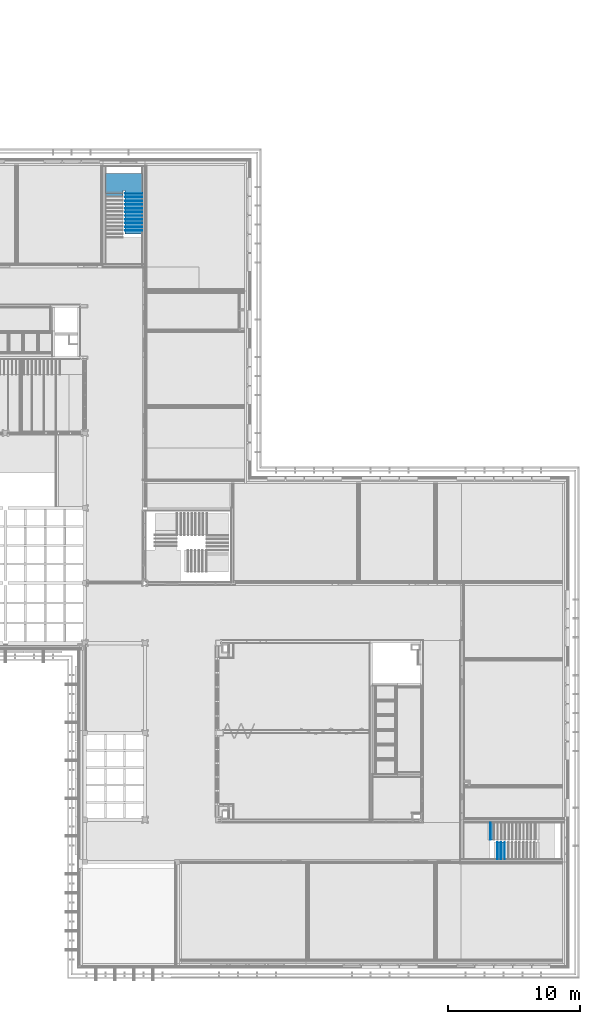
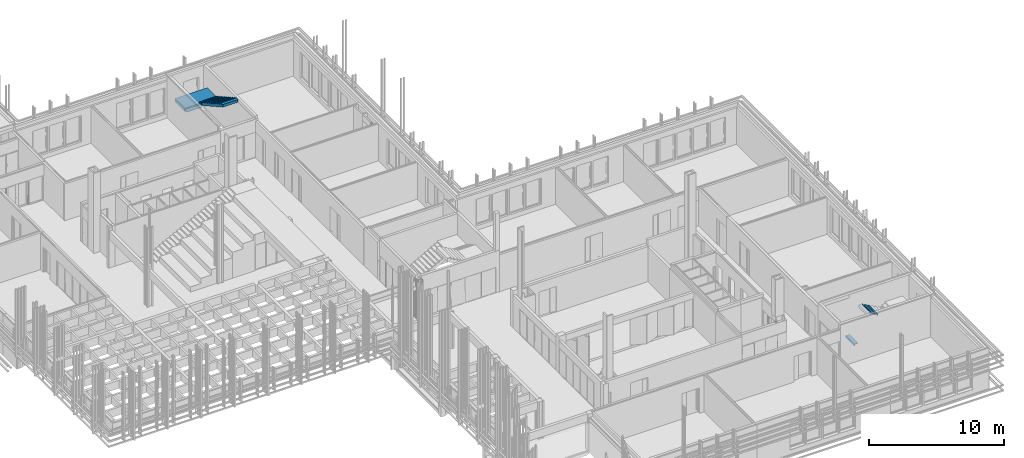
# One storey, part 43 of 139: 32 members, 2 elements without a shape of their own.
"""IFC2X3 building model written with IfcOpenShell, lengths in millimetres."""

from ifc_helpers import new_model, entity, si_unit, converted_unit, derived_unit, money_unit, direction, frame, origin_with_axes, place, context, subcontext, project, spatial, faceted_brep, material, type_object, element, aggregate, save


model = new_model("IFC2X3")

# Units and contexts
model_context = context("Model", 3, precision=0.01, world=origin_with_axes(), true_north=direction((0.0, 1.0)))
body_context = subcontext(model_context, "Body", "Model", "MODEL_VIEW")
ifc_project = project(units=[si_unit("LENGTHUNIT", "METRE", prefix="MILLI"), si_unit("AREAUNIT", "SQUARE_METRE"), si_unit("VOLUMEUNIT", "CUBIC_METRE"), converted_unit("PLANEANGLEUNIT", "DEGREE", entity("IfcPlaneAngleMeasure", 0.0174532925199), si_unit("PLANEANGLEUNIT", "RADIAN"), dimensions=[0, 0, 0, 0, 0, 0, 0]), money_unit("EUR"), converted_unit("TIMEUNIT", "Year", entity("IfcTimeMeasure", 31556926.0), si_unit("TIMEUNIT", "SECOND"), dimensions=[0, 0, 1, 0, 0, 0, 0]), si_unit("MASSUNIT", "GRAM", prefix="KILO"), si_unit("THERMODYNAMICTEMPERATUREUNIT", "DEGREE_CELSIUS"), si_unit("LUMINOUSINTENSITYUNIT", "LUMEN"), si_unit("ENERGYUNIT", "JOULE", prefix="MEGA"), derived_unit("THERMALCONDUCTANCEUNIT", [(si_unit("POWERUNIT", "WATT"), 1), (si_unit("LENGTHUNIT", "METRE"), -1), (si_unit("THERMODYNAMICTEMPERATUREUNIT", "KELVIN"), -1)]), derived_unit("SPECIFICHEATCAPACITYUNIT", [(si_unit("ENERGYUNIT", "JOULE"), 1), (si_unit("MASSUNIT", "GRAM", prefix="KILO"), -1), (si_unit("THERMODYNAMICTEMPERATUREUNIT", "KELVIN"), -1)]), derived_unit("MASSDENSITYUNIT", [(si_unit("MASSUNIT", "GRAM", prefix="KILO"), 1), (si_unit("VOLUMEUNIT", "CUBIC_METRE"), -1)])], contexts=[model_context])

# Site, building, storey
site_placement = place(None, origin_with_axes())
site = spatial("IfcSite", under=ifc_project, at=site_placement, Name="Kolde pst 67a", CompositionType="ELEMENT")
building_placement = place(site_placement, origin_with_axes())
building = spatial("IfcBuilding", under=site, at=building_placement, Name="Riigigümnaasium", CompositionType="ELEMENT")
storey_placement = place(building_placement, frame((0.0, 0.0, 4600.0), z_axis=(0.0, 0.0, 1.0), x_axis=(1.0, 0.0, 0.0)))
storey = spatial("IfcBuildingStorey", under=building, at=storey_placement, Name="2. korrus", CompositionType="ELEMENT", Elevation=4600.0)

# Stair, members
stair_1_placement = place(storey_placement, frame((51080.0706538, 54829.9964424, 0.0), z_axis=(0.0, 0.0, 1.0), x_axis=(-1.34692449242e-05, 0.999999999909, 0.0)))
stair_1 = element("IfcStair", 1, at=stair_1_placement, inside=storey, Name="TREPP", ShapeType="NOTDEFINED")
ifc_material_1 = material(Name="_KANDETARIND - raudbetoon C25/30 vastavalt EK osale")
member_type_1 = type_object("IfcMemberType", Name="IfcMember", PredefinedType="USERDEFINED")
member_1_placement = place(stair_1_placement, origin_with_axes())
member_1 = element("IfcMember", 2, at=member_1_placement, type_object=member_type_1, material=ifc_material_1, Name="TM KONSTRUKTSIOON - 005", ObjectType="Stair Structure", context=body_context, shape_type="Brep", body=[
    faceted_brep([(3389.99972087, -20.0455584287, 2001.25), (3559.99971549, -20.0478482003, 2001.25), (3559.99729103, -200.047888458, 2001.25), (3394.44999968, -200.045658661, 2001.25), (3394.44999969, -1500.04519461, 2001.25), (4839.97980631, -1500.04519461, 2001.25), (4840.01725407, 1279.88441487, 2001.25), (3390.01720204, 1279.90393313, 2001.25), (3389.99972087, -20.0455584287, 1845.0), (3359.99973031, -20.0451543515, 1845.0), (3359.99973031, -20.0451543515, 1736.25), (3559.99971549, -20.0478482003, 1736.25), (3559.99729103, -200.047888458, 1736.25), (3394.44999968, -200.045658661, 1736.25), (3394.44999969, -1500.04519461, 1736.25), (4839.97980631, -1500.04519461, 1736.25), (4840.01725407, 1279.88441487, 1736.25), (3360.01723808, 1279.90434006, 1736.25), (3360.01723808, 1279.90433698, 1845.0), (3390.01720204, 1279.90393313, 1845.0)], [[[0, 1, 2, 3, 4, 5, 6, 7]], [[1, 0, 8, 9, 10, 11]], [[2, 1, 11, 12]], [[3, 2, 12, 13]], [[3, 13, 14, 4]], [[15, 5, 4, 14]], [[15, 16, 6, 5]], [[17, 18, 19, 7, 6, 16]], [[8, 0, 7, 19]], [[9, 8, 19, 18]], [[10, 9, 18, 17]], [[11, 10, 17, 16, 15, 14, 13, 12]]]),
])
member_2_placement = place(stair_1_placement, origin_with_axes())
member_2 = element("IfcMember", 3, at=member_2_placement, type_object=member_type_1, material=ifc_material_1, Name="TT KONSTRUKTSIOON - 009", ObjectType="Stair Structure", context=body_context, shape_type="Brep", body=[
    faceted_brep([(3359.99730585, -200.045179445, 1755.47584433), (3359.99730585, -1500.04519461, 1755.47584433), (3266.6639737, -1500.04519461, 1807.55917662), (3266.6639737, -200.045179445, 1807.55917662), (3394.45003407, -200.045179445, 1736.25), (3394.45003407, -1500.04519461, 1736.25), (3394.45003407, -1500.04519461, 2001.25), (3359.99730585, -1500.04519461, 2001.25), (3329.99730585, -1500.04519461, 2001.25), (3329.99730585, -1500.04519461, 2157.5), (3049.99730585, -1500.04519461, 2157.5), (3049.99730585, -1500.04519461, 2313.75), (2769.99730585, -1500.04519461, 2313.75), (2769.99730585, -1500.04519461, 2470.0), (2489.99730585, -1500.04519461, 2470.0), (2489.99730585, -1500.04519461, 2626.25), (2209.99730585, -1500.04519461, 2626.25), (2209.99730585, -1500.04519461, 2782.5), (1929.99730585, -1500.04519461, 2782.5), (1929.99730585, -1500.04519461, 2938.75), (1649.99730585, -1500.04519461, 2938.75), (1649.99730585, -1500.04519461, 3095.0), (1369.99730585, -1500.04519461, 3095.0), (1369.99730585, -1500.04519461, 3251.25), (1089.99730585, -1500.04519461, 3251.25), (1089.99730585, -1500.04519461, 3407.5), (809.997305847, -1500.04519461, 3407.5), (809.997305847, -1500.04519461, 3563.75), (529.997305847, -1500.04519461, 3563.75), (529.997305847, -1500.04519461, 3720.0), (279.997305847, -1500.04519461, 3720.0), (279.997305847, -1500.04519461, 3474.22584289), (373.33063918, -1500.04519461, 3422.14250956), (466.663972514, -1500.04519461, 3370.05917622), (559.997305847, -1500.04519461, 3317.97584289), (653.33063918, -1500.04519461, 3265.89250956), (746.663972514, -1500.04519461, 3213.80917622), (839.997305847, -1500.04519461, 3161.72584289), (933.33063918, -1500.04519461, 3109.64250956), (1026.66397251, -1500.04519461, 3057.55917622), (1119.99730585, -1500.04519461, 3005.47584289), (1213.33063918, -1500.04519461, 2953.39250956), (1306.66397251, -1500.04519461, 2901.30917622), (1399.99730585, -1500.04519461, 2849.22584289), (1493.33063918, -1500.04519461, 2797.14250956), (1586.66397251, -1500.04519461, 2745.05917622), (1679.99730585, -1500.04519461, 2692.97584289), (1773.33063918, -1500.04519461, 2640.89250956), (1866.66397251, -1500.04519461, 2588.80917622), (1959.99730585, -1500.04519461, 2536.72584289), (2053.33063918, -1500.04519461, 2484.64250956), (2146.66397251, -1500.04519461, 2432.55917622), (2239.99730585, -1500.04519461, 2380.47584289), (2333.33063918, -1500.04519461, 2328.39250955), (2426.66397251, -1500.04519461, 2276.30917622), (2519.99730585, -1500.04519461, 2224.22584288), (2613.33063918, -1500.04519461, 2172.14250954), (2706.66397251, -1500.04519461, 2120.0591762), (2799.99730585, -1500.04519461, 2067.97584287), (2893.33063918, -1500.04519461, 2015.89250965), (2986.66397251, -1500.04519461, 1963.80917643), (3079.99730585, -1500.04519461, 1911.72584324), (3173.33063977, -1500.04519461, 1859.64250991), (3173.33063977, -200.045179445, 1859.64250991), (3329.99730585, -200.04519841, 2001.25), (3359.99730585, -200.045179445, 2001.25), (3394.45003407, -200.045179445, 2001.25), (3079.99730585, -200.045179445, 1911.72584324), (2986.66397251, -200.045194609, 1963.80917643), (2893.33063918, -200.045194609, 2015.89250965), (2799.99730585, -200.045194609, 2067.97584287), (2706.66397251, -200.045194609, 2120.0591762), (2613.33063918, -200.045194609, 2172.14250954), (2519.99730585, -200.045194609, 2224.22584288), (2426.66397251, -200.045194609, 2276.30917622), (2333.33063918, -200.045194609, 2328.39250955), (2239.99730585, -200.045194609, 2380.47584289), (2146.66397251, -200.045194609, 2432.55917622), (2053.33063918, -200.045194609, 2484.64250956), (1959.99730585, -200.045194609, 2536.72584289), (1866.66397251, -200.045194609, 2588.80917622), (1773.33063918, -200.045194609, 2640.89250956), (1679.99730585, -200.045194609, 2692.97584289), (1586.66397251, -200.045194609, 2745.05917622), (1493.33063918, -200.045194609, 2797.14250956), (1399.99730585, -200.045194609, 2849.22584289), (1306.66397251, -200.045194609, 2901.30917622), (1213.33063918, -200.045194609, 2953.39250956), (1119.99730585, -200.045194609, 3005.47584289), (1026.66397251, -200.045194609, 3057.55917622), (933.33063918, -200.045194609, 3109.64250956), (839.997305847, -200.045194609, 3161.72584289), (746.663972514, -200.045194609, 3213.80917622), (653.33063918, -200.045194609, 3265.89250956), (559.997305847, -200.045194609, 3317.97584289), (466.663972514, -200.045194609, 3370.05917622), (373.33063918, -200.045194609, 3422.14250956), (279.997305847, -200.045194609, 3474.22584289), (279.997305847, -200.045194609, 3720.0), (529.997305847, -200.045194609, 3720.0), (529.997305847, -200.045194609, 3563.75), (809.997305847, -200.045194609, 3563.75), (809.997305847, -200.045194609, 3407.5), (1089.99730585, -200.045194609, 3407.5), (1089.99730585, -200.045194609, 3251.25), (1369.99730585, -200.045194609, 3251.25), (1369.99730585, -200.045194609, 3095.0), (1649.99730585, -200.045194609, 3095.0), (1649.99730585, -200.045194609, 2938.75), (1929.99730585, -200.045194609, 2938.75), (1929.99730585, -200.045194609, 2782.5), (2209.99730585, -200.045194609, 2782.5), (2209.99730585, -200.045194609, 2626.25), (2489.99730585, -200.045194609, 2626.25), (2489.99730585, -200.045194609, 2470.0), (2769.99730585, -200.045194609, 2470.0), (2769.99730585, -200.045194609, 2313.75), (3049.99730585, -200.045194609, 2313.75), (3049.99730585, -200.045194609, 2157.5), (3329.99730585, -200.04519841, 2157.5)], [[[0, 1, 2, 3]], [[1, 0, 4, 5]], [[2, 1, 5, 6, 7, 8, 9, 10, 11, 12, 13, 14, 15, 16, 17, 18, 19, 20, 21, 22, 23, 24, 25, 26, 27, 28, 29, 30, 31, 32, 33, 34, 35, 36, 37, 38, 39, 40, 41, 42, 43, 44, 45, 46, 47, 48, 49, 50, 51, 52, 53, 54, 55, 56, 57, 58, 59, 60, 61, 62]], [[62, 63, 3, 2]], [[64, 65, 66, 4, 0, 3, 63, 67, 68, 69, 70, 71, 72, 73, 74, 75, 76, 77, 78, 79, 80, 81, 82, 83, 84, 85, 86, 87, 88, 89, 90, 91, 92, 93, 94, 95, 96, 97, 98, 99, 100, 101, 102, 103, 104, 105, 106, 107, 108, 109, 110, 111, 112, 113, 114, 115, 116, 117, 118, 119]], [[6, 5, 4, 66]], [[8, 7, 6, 66, 65, 64]], [[64, 119, 9, 8]], [[119, 118, 10, 9]], [[118, 117, 11, 10]], [[117, 116, 12, 11]], [[116, 115, 13, 12]], [[115, 114, 14, 13]], [[114, 113, 15, 14]], [[113, 112, 16, 15]], [[112, 111, 17, 16]], [[111, 110, 18, 17]], [[110, 109, 19, 18]], [[109, 108, 20, 19]], [[108, 107, 21, 20]], [[107, 106, 22, 21]], [[106, 105, 23, 22]], [[105, 104, 24, 23]], [[104, 103, 25, 24]], [[103, 102, 26, 25]], [[102, 101, 27, 26]], [[101, 100, 28, 27]], [[100, 99, 29, 28]], [[98, 30, 29, 99]], [[31, 30, 98, 97]], [[31, 97, 96, 32]], [[32, 96, 95, 33]], [[33, 95, 94, 34]], [[34, 94, 93, 35]], [[35, 93, 92, 36]], [[36, 92, 91, 37]], [[37, 91, 90, 38]], [[38, 90, 89, 39]], [[39, 89, 88, 40]], [[40, 88, 87, 41]], [[41, 87, 86, 42]], [[42, 86, 85, 43]], [[43, 85, 84, 44]], [[44, 84, 83, 45]], [[45, 83, 82, 46]], [[46, 82, 81, 47]], [[47, 81, 80, 48]], [[48, 80, 79, 49]], [[49, 79, 78, 50]], [[50, 78, 77, 51]], [[51, 77, 76, 52]], [[52, 76, 75, 53]], [[53, 75, 74, 54]], [[54, 74, 73, 55]], [[55, 73, 72, 56]], [[56, 72, 71, 57]], [[57, 71, 70, 58]], [[58, 70, 69, 59]], [[59, 69, 68, 60]], [[60, 68, 67, 61]], [[61, 67, 63, 62]]]),
])

stair_2_placement = place(storey_placement, frame((78829.6164915, 9409.92216773, 0.0), z_axis=(0.0, 0.0, 1.0), x_axis=(0.999999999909, 1.34692449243e-05, 0.0)))
stair_2 = element("IfcStair", 4, at=stair_2_placement, inside=storey, Name="TREPP", ShapeType="NOTDEFINED")
ifc_material_2 = material(Name="_VIIMISTLUSKIHT - viimistlus vastavalt SA osale")
member_type_2 = type_object("IfcMemberType", Name="IfcMember", PredefinedType="USERDEFINED")
member_3_placement = place(stair_2_placement, frame((0.00874303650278, 649.999999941, 126.25), z_axis=(0.0, 0.0, 1.0), x_axis=(1.34508253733e-05, 0.99999999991, 0.0)))
member_3 = element("IfcMember", 5, at=member_3_placement, type_object=member_type_2, material=ifc_material_2, Name="TV TÕUS - 117", ObjectType="Stair Riser", context=body_context, shape_type="Brep", body=[
    faceted_brep([(629.949534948, 0.0, 0.0), (-670.0, 0.0, 0.0), (-670.0, -30.0, 0.0), (629.949534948, -30.0, 0.0), (629.949534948, 0.0, -126.25), (-670.0, 0.0, -126.25), (-670.0, -30.0, -126.25), (629.949534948, -30.0, -126.25)], [[[0, 1, 2, 3]], [[4, 5, 1, 0]], [[1, 5, 6, 2]], [[3, 2, 6, 7]], [[0, 3, 7, 4]], [[7, 6, 5, 4]]]),
])
member_4_placement = place(stair_2_placement, frame((1119.99730585, -850.045194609, 3407.5), z_axis=(0.0, 0.0, 1.0), x_axis=(0.0, -1.0, 0.0)))
member_4 = element("IfcMember", 6, at=member_4_placement, type_object=member_type_2, material=ifc_material_2, Name="TV TÕUS - 137", ObjectType="Stair Riser", context=body_context, shape_type="Brep", body=[
    faceted_brep([(650.0, 0.0, 0.0), (-650.000000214, 0.0, 0.0), (-650.000000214, -30.0, 0.0), (650.0, -30.0, 0.0), (650.0, 0.0, -126.25), (-650.000000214, 0.0, -126.25), (-650.000000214, -30.0, -126.25), (650.0, -30.0, -126.25)], [[[0, 1, 2, 3]], [[4, 5, 1, 0]], [[1, 5, 6, 2]], [[3, 2, 6, 7]], [[0, 3, 7, 4]], [[7, 6, 5, 4]]]),
])
member_5_placement = place(stair_2_placement, frame((839.997305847, -850.045194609, 3563.75), z_axis=(0.0, 0.0, 1.0), x_axis=(0.0, -1.0, 0.0)))
member_5 = element("IfcMember", 7, at=member_5_placement, type_object=member_type_2, material=ifc_material_2, Name="TV TÕUS - 138", ObjectType="Stair Riser", context=body_context, shape_type="Brep", body=[
    faceted_brep([(650.0, 0.0, 0.0), (-650.000000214, 0.0, 0.0), (-650.000000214, -30.0, 0.0), (650.0, -30.0, 0.0), (650.0, 0.0, -126.25), (-650.000000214, 0.0, -126.25), (-650.000000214, -30.0, -126.25), (650.0, -30.0, -126.25)], [[[0, 1, 2, 3]], [[4, 5, 1, 0]], [[1, 5, 6, 2]], [[3, 2, 6, 7]], [[0, 3, 7, 4]], [[7, 6, 5, 4]]]),
])
member_6_placement = place(stair_2_placement, frame((559.997305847, -850.045194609, 3720.0), z_axis=(0.0, 0.0, 1.0), x_axis=(0.0, -1.0, 0.0)))
member_6 = element("IfcMember", 8, at=member_6_placement, type_object=member_type_2, material=ifc_material_2, Name="TV TÕUS - 139", ObjectType="Stair Riser", context=body_context, shape_type="Brep", body=[
    faceted_brep([(650.0, 0.0, 0.0), (-650.000000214, 0.0, 0.0), (-650.000000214, -30.0, 0.0), (650.0, -30.0, 0.0), (650.0, 0.0, -126.25), (-650.000000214, 0.0, -126.25), (-650.000000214, -30.0, -126.25), (650.0, -30.0, -126.25)], [[[0, 1, 2, 3]], [[4, 5, 1, 0]], [[1, 5, 6, 2]], [[3, 2, 6, 7]], [[0, 3, 7, 4]], [[7, 6, 5, 4]]]),
])

# Member
member_7_placement = place(stair_1_placement, frame((3359.99730585, -850.045194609, 2157.5), z_axis=(0.0, 0.0, 1.0), x_axis=(0.0, -1.0, 0.0)))
member_7 = element("IfcMember", 9, at=member_7_placement, type_object=member_type_2, material=ifc_material_2, Name="TV TÕUS - 129", ObjectType="Stair Riser", context=body_context, shape_type="Brep", body=[
    faceted_brep([(650.0, -30.0, 0.0), (650.0, 0.0, 0.0), (-650.000000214, 0.0, 0.0), (-650.000000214, -30.0, 0.0), (650.0, 0.0, -126.25), (650.0, -30.0, -126.25), (-650.000000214, 0.0, -126.25), (-650.000000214, -30.0, -126.25)], [[[0, 1, 2, 3]], [[4, 1, 0, 5]], [[1, 4, 6, 2]], [[3, 2, 6, 7]], [[5, 0, 3, 7]], [[4, 5, 7, 6]]]),
])

member_8_placement = place(stair_1_placement, frame((3079.99730585, -850.045194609, 2313.75), z_axis=(0.0, 0.0, 1.0), x_axis=(0.0, -1.0, 0.0)))
member_8 = element("IfcMember", 10, at=member_8_placement, type_object=member_type_2, material=ifc_material_2, Name="TV TÕUS - 130", ObjectType="Stair Riser", context=body_context, shape_type="Brep", body=[
    faceted_brep([(650.0, 0.0, 0.0), (-650.000000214, 0.0, 0.0), (-650.000000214, -30.0, 0.0), (650.0, -30.0, 0.0), (650.0, 0.0, -126.25), (-650.000000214, 0.0, -126.25), (-650.000000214, -30.0, -126.25), (650.0, -30.0, -126.25)], [[[0, 1, 2, 3]], [[4, 5, 1, 0]], [[1, 5, 6, 2]], [[3, 2, 6, 7]], [[0, 3, 7, 4]], [[7, 6, 5, 4]]]),
])

member_9_placement = place(stair_1_placement, frame((2799.99730585, -850.045194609, 2470.0), z_axis=(0.0, 0.0, 1.0), x_axis=(0.0, -1.0, 0.0)))
member_9 = element("IfcMember", 11, at=member_9_placement, type_object=member_type_2, material=ifc_material_2, Name="TV TÕUS - 131", ObjectType="Stair Riser", context=body_context, shape_type="Brep", body=[
    faceted_brep([(650.0, 0.0, 0.0), (-650.000000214, 0.0, 0.0), (-650.000000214, -30.0, 0.0), (650.0, -30.0, 0.0), (650.0, 0.0, -126.25), (-650.000000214, 0.0, -126.25), (-650.000000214, -30.0, -126.25), (650.0, -30.0, -126.25)], [[[0, 1, 2, 3]], [[4, 5, 1, 0]], [[1, 5, 6, 2]], [[3, 2, 6, 7]], [[0, 3, 7, 4]], [[7, 6, 5, 4]]]),
])

member_10_placement = place(stair_1_placement, frame((2519.99730585, -850.045194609, 2626.25), z_axis=(0.0, 0.0, 1.0), x_axis=(0.0, -1.0, 0.0)))
member_10 = element("IfcMember", 12, at=member_10_placement, type_object=member_type_2, material=ifc_material_2, Name="TV TÕUS - 132", ObjectType="Stair Riser", context=body_context, shape_type="Brep", body=[
    faceted_brep([(650.0, 0.0, 0.0), (-650.000000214, 0.0, 0.0), (-650.000000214, -30.0, 0.0), (650.0, -30.0, 0.0), (650.0, 0.0, -126.25), (-650.000000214, 0.0, -126.25), (-650.000000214, -30.0, -126.25), (650.0, -30.0, -126.25)], [[[0, 1, 2, 3]], [[4, 5, 1, 0]], [[1, 5, 6, 2]], [[3, 2, 6, 7]], [[0, 3, 7, 4]], [[7, 6, 5, 4]]]),
])

member_11_placement = place(stair_1_placement, frame((2239.99730585, -850.045194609, 2782.5), z_axis=(0.0, 0.0, 1.0), x_axis=(0.0, -1.0, 0.0)))
member_11 = element("IfcMember", 13, at=member_11_placement, type_object=member_type_2, material=ifc_material_2, Name="TV TÕUS - 133", ObjectType="Stair Riser", context=body_context, shape_type="Brep", body=[
    faceted_brep([(650.0, 0.0, 0.0), (-650.000000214, 0.0, 0.0), (-650.000000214, -30.0, 0.0), (650.0, -30.0, 0.0), (650.0, 0.0, -126.25), (-650.000000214, 0.0, -126.25), (-650.000000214, -30.0, -126.25), (650.0, -30.0, -126.25)], [[[0, 1, 2, 3]], [[4, 5, 1, 0]], [[1, 5, 6, 2]], [[3, 2, 6, 7]], [[0, 3, 7, 4]], [[7, 6, 5, 4]]]),
])

member_12_placement = place(stair_1_placement, frame((1959.99730585, -850.045194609, 2938.75), z_axis=(0.0, 0.0, 1.0), x_axis=(0.0, -1.0, 0.0)))
member_12 = element("IfcMember", 14, at=member_12_placement, type_object=member_type_2, material=ifc_material_2, Name="TV TÕUS - 134", ObjectType="Stair Riser", context=body_context, shape_type="Brep", body=[
    faceted_brep([(650.0, 0.0, 0.0), (-650.000000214, 0.0, 0.0), (-650.000000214, -30.0, 0.0), (650.0, -30.0, 0.0), (650.0, 0.0, -126.25), (-650.000000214, 0.0, -126.25), (-650.000000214, -30.0, -126.25), (650.0, -30.0, -126.25)], [[[0, 1, 2, 3]], [[4, 5, 1, 0]], [[1, 5, 6, 2]], [[3, 2, 6, 7]], [[0, 3, 7, 4]], [[7, 6, 5, 4]]]),
])

member_13_placement = place(stair_1_placement, frame((1679.99730585, -850.045194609, 3095.0), z_axis=(0.0, 0.0, 1.0), x_axis=(0.0, -1.0, 0.0)))
member_13 = element("IfcMember", 15, at=member_13_placement, type_object=member_type_2, material=ifc_material_2, Name="TV TÕUS - 135", ObjectType="Stair Riser", context=body_context, shape_type="Brep", body=[
    faceted_brep([(650.0, 0.0, 0.0), (-650.000000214, 0.0, 0.0), (-650.000000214, -30.0, 0.0), (650.0, -30.0, 0.0), (650.0, 0.0, -126.25), (-650.000000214, 0.0, -126.25), (-650.000000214, -30.0, -126.25), (650.0, -30.0, -126.25)], [[[0, 1, 2, 3]], [[4, 5, 1, 0]], [[1, 5, 6, 2]], [[3, 2, 6, 7]], [[0, 3, 7, 4]], [[7, 6, 5, 4]]]),
])

member_14_placement = place(stair_1_placement, frame((1399.99730585, -850.045194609, 3251.25), z_axis=(0.0, 0.0, 1.0), x_axis=(0.0, -1.0, 0.0)))
member_14 = element("IfcMember", 16, at=member_14_placement, type_object=member_type_2, material=ifc_material_2, Name="TV TÕUS - 136", ObjectType="Stair Riser", context=body_context, shape_type="Brep", body=[
    faceted_brep([(650.0, 0.0, 0.0), (-650.000000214, 0.0, 0.0), (-650.000000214, -30.0, 0.0), (650.0, -30.0, 0.0), (650.0, 0.0, -126.25), (-650.000000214, 0.0, -126.25), (-650.000000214, -30.0, -126.25), (650.0, -30.0, -126.25)], [[[0, 1, 2, 3]], [[4, 5, 1, 0]], [[1, 5, 6, 2]], [[3, 2, 6, 7]], [[0, 3, 7, 4]], [[7, 6, 5, 4]]]),
])

member_15_placement = place(stair_1_placement, frame((1119.99730585, -850.045194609, 3407.5), z_axis=(0.0, 0.0, 1.0), x_axis=(0.0, -1.0, 0.0)))
member_15 = element("IfcMember", 17, at=member_15_placement, type_object=member_type_2, material=ifc_material_2, Name="TV TÕUS - 137", ObjectType="Stair Riser", context=body_context, shape_type="Brep", body=[
    faceted_brep([(650.0, 0.0, 0.0), (-650.000000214, 0.0, 0.0), (-650.000000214, -30.0, 0.0), (650.0, -30.0, 0.0), (650.0, 0.0, -126.25), (-650.000000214, 0.0, -126.25), (-650.000000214, -30.0, -126.25), (650.0, -30.0, -126.25)], [[[0, 1, 2, 3]], [[4, 5, 1, 0]], [[1, 5, 6, 2]], [[3, 2, 6, 7]], [[0, 3, 7, 4]], [[7, 6, 5, 4]]]),
])

member_16_placement = place(stair_1_placement, frame((839.997305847, -850.045194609, 3563.75), z_axis=(0.0, 0.0, 1.0), x_axis=(0.0, -1.0, 0.0)))
member_16 = element("IfcMember", 18, at=member_16_placement, type_object=member_type_2, material=ifc_material_2, Name="TV TÕUS - 138", ObjectType="Stair Riser", context=body_context, shape_type="Brep", body=[
    faceted_brep([(650.0, 0.0, 0.0), (-650.000000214, 0.0, 0.0), (-650.000000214, -30.0, 0.0), (650.0, -30.0, 0.0), (650.0, 0.0, -126.25), (-650.000000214, 0.0, -126.25), (-650.000000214, -30.0, -126.25), (650.0, -30.0, -126.25)], [[[0, 1, 2, 3]], [[4, 5, 1, 0]], [[1, 5, 6, 2]], [[3, 2, 6, 7]], [[0, 3, 7, 4]], [[7, 6, 5, 4]]]),
])

member_17_placement = place(stair_1_placement, frame((559.997305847, -850.045194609, 3720.0), z_axis=(0.0, 0.0, 1.0), x_axis=(0.0, -1.0, 0.0)))
member_17 = element("IfcMember", 19, at=member_17_placement, type_object=member_type_2, material=ifc_material_2, Name="TV TÕUS - 139", ObjectType="Stair Riser", context=body_context, shape_type="Brep", body=[
    faceted_brep([(650.0, 0.0, 0.0), (-650.000000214, 0.0, 0.0), (-650.000000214, -30.0, 0.0), (650.0, -30.0, 0.0), (650.0, 0.0, -126.25), (-650.000000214, 0.0, -126.25), (-650.000000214, -30.0, -126.25), (650.0, -30.0, -126.25)], [[[0, 1, 2, 3]], [[4, 5, 1, 0]], [[1, 5, 6, 2]], [[3, 2, 6, 7]], [[0, 3, 7, 4]], [[7, 6, 5, 4]]]),
])

member_type_3 = type_object("IfcMemberType", Name="IfcMember", PredefinedType="USERDEFINED")
member_18_placement = place(stair_2_placement, frame((0.00874303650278, 649.999999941, 156.25), z_axis=(0.0, 0.0, 1.0), x_axis=(1.34508253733e-05, 0.99999999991, 0.0)))
member_18 = element("IfcMember", 20, at=member_18_placement, type_object=member_type_3, material=ifc_material_2, Name="TV ASTE - 117", ObjectType="Stair Tread", context=body_context, shape_type="Brep", body=[
    faceted_brep([(-670.0, 0.0, -30.0), (-670.0, 0.0, 0.0), (629.949534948, 0.0, 0.0), (629.949534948, 0.0, -30.0), (-670.0, -310.000006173, -30.0), (-670.0, -310.000006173, 0.0), (629.949534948, -309.999993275, 0.0), (629.949534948, -309.999993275, -30.0)], [[[0, 1, 2, 3]], [[4, 5, 1, 0]], [[1, 5, 6, 2]], [[3, 2, 6, 7]], [[0, 3, 7, 4]], [[7, 6, 5, 4]]]),
])

member_19_placement = place(stair_2_placement, frame((1119.99730585, -850.045194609, 3437.5), z_axis=(0.0, 0.0, 1.0), x_axis=(0.0, -1.0, 0.0)))
member_19 = element("IfcMember", 21, at=member_19_placement, type_object=member_type_3, material=ifc_material_2, Name="TV ASTE - 137", ObjectType="Stair Tread", context=body_context, shape_type="Brep", body=[
    faceted_brep([(-650.0, 0.0, -30.0), (-650.0, 0.0, 0.0), (650.0, 0.0, 0.0), (650.0, 0.0, -30.0), (-650.0, -310.0, -30.0), (-650.0, -310.0, 0.0), (650.0, -310.0, 0.0), (650.0, -310.0, -30.0)], [[[0, 1, 2, 3]], [[4, 5, 1, 0]], [[1, 5, 6, 2]], [[3, 2, 6, 7]], [[0, 3, 7, 4]], [[7, 6, 5, 4]]]),
])

member_20_placement = place(stair_2_placement, frame((839.997305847, -850.045194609, 3593.75), z_axis=(0.0, 0.0, 1.0), x_axis=(0.0, -1.0, 0.0)))
member_20 = element("IfcMember", 22, at=member_20_placement, type_object=member_type_3, material=ifc_material_2, Name="TV ASTE - 138", ObjectType="Stair Tread", context=body_context, shape_type="Brep", body=[
    faceted_brep([(-650.0, 0.0, -30.0), (-650.0, 0.0, 0.0), (650.0, 0.0, 0.0), (650.0, 0.0, -30.0), (-650.0, -310.0, -30.0), (-650.0, -310.0, 0.0), (650.0, -310.0, 0.0), (650.0, -310.0, -30.0)], [[[0, 1, 2, 3]], [[4, 5, 1, 0]], [[1, 5, 6, 2]], [[3, 2, 6, 7]], [[0, 3, 7, 4]], [[7, 6, 5, 4]]]),
])

aggregate(stair_2, [member_3, member_4, member_5, member_6, member_18, member_19, member_20])

member_21_placement = place(stair_1_placement, frame((3080.00874276, 649.958571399, 1875.0), z_axis=(0.0, 0.0, 1.0), x_axis=(1.34508253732e-05, 0.99999999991, 0.0)))
member_21 = element("IfcMember", 23, at=member_21_placement, type_object=member_type_3, material=ifc_material_2, Name="TV ASTE - 128", ObjectType="Stair Tread", context=body_context, shape_type="Brep", body=[
    faceted_brep([(629.949534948, 0.0, -30.0), (-670.0, 0.0, -30.0), (-670.0, 0.0, 0.0), (629.949534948, 0.0, 0.0), (-670.0, -279.999999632, -30.0), (629.949534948, -309.999994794, -30.0), (-670.000000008, -310.000007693, -30.0), (-670.0, -279.999999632, 0.0), (-670.000000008, -310.000007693, 0.0), (629.949534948, -309.999994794, 0.0)], [[[0, 1, 2, 3]], [[4, 1, 0, 5, 6]], [[1, 4, 7, 2]], [[3, 2, 7, 8, 9]], [[5, 0, 3, 9]], [[6, 5, 9, 8]], [[4, 6, 8, 7]]]),
])

member_22_placement = place(stair_1_placement, frame((3360.00874273, 649.954805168, 2031.25), z_axis=(0.0, 0.0, 1.0), x_axis=(1.34508253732e-05, 0.99999999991, 0.0)))
member_22 = element("IfcMember", 24, at=member_22_placement, type_object=member_type_3, material=ifc_material_2, Name="SL TREAD - 005", ObjectType="Stair Tread", context=body_context, shape_type="Brep", body=[
    faceted_brep([(-849.997294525, -200.000003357, 0.0), (-849.997294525, -200.000003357, -30.0), (-850.000388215, 30.0000036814, -30.0), (-850.000388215, 30.0000036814, 0.0), (-669.999963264, -199.999984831, 0.0), (-669.999963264, -199.999984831, -30.0), (-2149.98009275, -1479.99998272, -30.0), (-2150.00040326, 29.9825176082, -30.0), (-669.999983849, 1.51691992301e-05, -30.0), (629.949534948, -2.20069438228e-05, -30.0), (629.949516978, -1480.00003813, -30.0), (-2150.00040326, 29.9825176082, 0.0), (-2149.98009275, -1479.99998272, 0.0), (629.949516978, -1480.00003813, 0.0), (629.949534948, -2.20069438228e-05, 0.0), (-669.999983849, 1.51691992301e-05, 0.0)], [[[0, 1, 2, 3]], [[4, 5, 1, 0]], [[6, 7, 2, 1, 5, 8, 9, 10]], [[3, 2, 7, 11]], [[4, 0, 3, 11, 12, 13, 14, 15]], [[15, 8, 5, 4]], [[11, 7, 6, 12]], [[14, 9, 8, 15]], [[13, 10, 9, 14]], [[12, 6, 10, 13]]]),
])

member_23_placement = place(stair_1_placement, frame((3359.99730585, -850.045194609, 2187.5), z_axis=(0.0, 0.0, 1.0), x_axis=(0.0, -1.0, 0.0)))
member_23 = element("IfcMember", 25, at=member_23_placement, type_object=member_type_3, material=ifc_material_2, Name="TV ASTE - 129", ObjectType="Stair Tread", context=body_context, shape_type="Brep", body=[
    faceted_brep([(650.0, -310.0, -30.0), (650.0, 5.9604587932e-06, -30.0), (650.0, 5.9604587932e-06, 0.0), (650.0, -310.0, 0.0), (-650.0, 5.96047300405e-06, -30.0), (-650.0, -310.0, -30.0), (-650.0, 5.96047300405e-06, 0.0), (-650.0, -310.0, 0.0)], [[[0, 1, 2, 3]], [[4, 1, 0, 5]], [[1, 4, 6, 2]], [[3, 2, 6, 7]], [[5, 0, 3, 7]], [[4, 5, 7, 6]]]),
])

member_24_placement = place(stair_1_placement, frame((3079.99730585, -850.045194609, 2343.75), z_axis=(0.0, 0.0, 1.0), x_axis=(0.0, -1.0, 0.0)))
member_24 = element("IfcMember", 26, at=member_24_placement, type_object=member_type_3, material=ifc_material_2, Name="TV ASTE - 130", ObjectType="Stair Tread", context=body_context, shape_type="Brep", body=[
    faceted_brep([(-650.0, 0.0, -30.0), (-650.0, 0.0, 0.0), (650.0, 0.0, 0.0), (650.0, 0.0, -30.0), (-650.0, -310.0, -30.0), (-650.0, -310.0, 0.0), (650.0, -310.0, 0.0), (650.0, -310.0, -30.0)], [[[0, 1, 2, 3]], [[4, 5, 1, 0]], [[1, 5, 6, 2]], [[3, 2, 6, 7]], [[0, 3, 7, 4]], [[7, 6, 5, 4]]]),
])

member_25_placement = place(stair_1_placement, frame((2799.99730585, -850.045194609, 2500.0), z_axis=(0.0, 0.0, 1.0), x_axis=(0.0, -1.0, 0.0)))
member_25 = element("IfcMember", 27, at=member_25_placement, type_object=member_type_3, material=ifc_material_2, Name="TV ASTE - 131", ObjectType="Stair Tread", context=body_context, shape_type="Brep", body=[
    faceted_brep([(-650.0, 0.0, -30.0), (-650.0, 0.0, 0.0), (650.0, 0.0, 0.0), (650.0, 0.0, -30.0), (-650.0, -310.0, -30.0), (-650.0, -310.0, 0.0), (650.0, -310.0, 0.0), (650.0, -310.0, -30.0)], [[[0, 1, 2, 3]], [[4, 5, 1, 0]], [[1, 5, 6, 2]], [[3, 2, 6, 7]], [[0, 3, 7, 4]], [[7, 6, 5, 4]]]),
])

member_26_placement = place(stair_1_placement, frame((2519.99730585, -850.045194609, 2656.25), z_axis=(0.0, 0.0, 1.0), x_axis=(0.0, -1.0, 0.0)))
member_26 = element("IfcMember", 28, at=member_26_placement, type_object=member_type_3, material=ifc_material_2, Name="TV ASTE - 132", ObjectType="Stair Tread", context=body_context, shape_type="Brep", body=[
    faceted_brep([(-650.0, 0.0, -30.0), (-650.0, 0.0, 0.0), (650.0, 0.0, 0.0), (650.0, 0.0, -30.0), (-650.0, -310.0, -30.0), (-650.0, -310.0, 0.0), (650.0, -310.0, 0.0), (650.0, -310.0, -30.0)], [[[0, 1, 2, 3]], [[4, 5, 1, 0]], [[1, 5, 6, 2]], [[3, 2, 6, 7]], [[0, 3, 7, 4]], [[7, 6, 5, 4]]]),
])

member_27_placement = place(stair_1_placement, frame((2239.99730585, -850.045194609, 2812.5), z_axis=(0.0, 0.0, 1.0), x_axis=(0.0, -1.0, 0.0)))
member_27 = element("IfcMember", 29, at=member_27_placement, type_object=member_type_3, material=ifc_material_2, Name="TV ASTE - 133", ObjectType="Stair Tread", context=body_context, shape_type="Brep", body=[
    faceted_brep([(-650.0, 0.0, -30.0), (-650.0, 0.0, 0.0), (650.0, 0.0, 0.0), (650.0, 0.0, -30.0), (-650.0, -310.0, -30.0), (-650.0, -310.0, 0.0), (650.0, -310.0, 0.0), (650.0, -310.0, -30.0)], [[[0, 1, 2, 3]], [[4, 5, 1, 0]], [[1, 5, 6, 2]], [[3, 2, 6, 7]], [[0, 3, 7, 4]], [[7, 6, 5, 4]]]),
])

member_28_placement = place(stair_1_placement, frame((1959.99730585, -850.045194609, 2968.75), z_axis=(0.0, 0.0, 1.0), x_axis=(0.0, -1.0, 0.0)))
member_28 = element("IfcMember", 30, at=member_28_placement, type_object=member_type_3, material=ifc_material_2, Name="TV ASTE - 134", ObjectType="Stair Tread", context=body_context, shape_type="Brep", body=[
    faceted_brep([(-650.0, 0.0, -30.0), (-650.0, 0.0, 0.0), (650.0, 0.0, 0.0), (650.0, 0.0, -30.0), (-650.0, -310.0, -30.0), (-650.0, -310.0, 0.0), (650.0, -310.0, 0.0), (650.0, -310.0, -30.0)], [[[0, 1, 2, 3]], [[4, 5, 1, 0]], [[1, 5, 6, 2]], [[3, 2, 6, 7]], [[0, 3, 7, 4]], [[7, 6, 5, 4]]]),
])

member_29_placement = place(stair_1_placement, frame((1679.99730585, -850.045194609, 3125.0), z_axis=(0.0, 0.0, 1.0), x_axis=(0.0, -1.0, 0.0)))
member_29 = element("IfcMember", 31, at=member_29_placement, type_object=member_type_3, material=ifc_material_2, Name="TV ASTE - 135", ObjectType="Stair Tread", context=body_context, shape_type="Brep", body=[
    faceted_brep([(-650.0, 0.0, -30.0), (-650.0, 0.0, 0.0), (650.0, 0.0, 0.0), (650.0, 0.0, -30.0), (-650.0, -310.0, -30.0), (-650.0, -310.0, 0.0), (650.0, -310.0, 0.0), (650.0, -310.0, -30.0)], [[[0, 1, 2, 3]], [[4, 5, 1, 0]], [[1, 5, 6, 2]], [[3, 2, 6, 7]], [[0, 3, 7, 4]], [[7, 6, 5, 4]]]),
])

member_30_placement = place(stair_1_placement, frame((1399.99730585, -850.045194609, 3281.25), z_axis=(0.0, 0.0, 1.0), x_axis=(0.0, -1.0, 0.0)))
member_30 = element("IfcMember", 32, at=member_30_placement, type_object=member_type_3, material=ifc_material_2, Name="TV ASTE - 136", ObjectType="Stair Tread", context=body_context, shape_type="Brep", body=[
    faceted_brep([(-650.0, 0.0, -30.0), (-650.0, 0.0, 0.0), (650.0, 0.0, 0.0), (650.0, 0.0, -30.0), (-650.0, -310.0, -30.0), (-650.0, -310.0, 0.0), (650.0, -310.0, 0.0), (650.0, -310.0, -30.0)], [[[0, 1, 2, 3]], [[4, 5, 1, 0]], [[1, 5, 6, 2]], [[3, 2, 6, 7]], [[0, 3, 7, 4]], [[7, 6, 5, 4]]]),
])

member_31_placement = place(stair_1_placement, frame((1119.99730585, -850.045194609, 3437.5), z_axis=(0.0, 0.0, 1.0), x_axis=(0.0, -1.0, 0.0)))
member_31 = element("IfcMember", 33, at=member_31_placement, type_object=member_type_3, material=ifc_material_2, Name="TV ASTE - 137", ObjectType="Stair Tread", context=body_context, shape_type="Brep", body=[
    faceted_brep([(-650.0, 0.0, -30.0), (-650.0, 0.0, 0.0), (650.0, 0.0, 0.0), (650.0, 0.0, -30.0), (-650.0, -310.0, -30.0), (-650.0, -310.0, 0.0), (650.0, -310.0, 0.0), (650.0, -310.0, -30.0)], [[[0, 1, 2, 3]], [[4, 5, 1, 0]], [[1, 5, 6, 2]], [[3, 2, 6, 7]], [[0, 3, 7, 4]], [[7, 6, 5, 4]]]),
])

member_32_placement = place(stair_1_placement, frame((839.997305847, -850.045194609, 3593.75), z_axis=(0.0, 0.0, 1.0), x_axis=(0.0, -1.0, 0.0)))
member_32 = element("IfcMember", 34, at=member_32_placement, type_object=member_type_3, material=ifc_material_2, Name="TV ASTE - 138", ObjectType="Stair Tread", context=body_context, shape_type="Brep", body=[
    faceted_brep([(-650.0, 0.0, -30.0), (-650.0, 0.0, 0.0), (650.0, 0.0, 0.0), (650.0, 0.0, -30.0), (-650.0, -310.0, -30.0), (-650.0, -310.0, 0.0), (650.0, -310.0, 0.0), (650.0, -310.0, -30.0)], [[[0, 1, 2, 3]], [[4, 5, 1, 0]], [[1, 5, 6, 2]], [[3, 2, 6, 7]], [[0, 3, 7, 4]], [[7, 6, 5, 4]]]),
])

aggregate(stair_1, [member_1, member_2, member_7, member_8, member_9, member_10, member_11, member_12, member_13, member_14, member_15, member_16, member_17, member_21, member_22, member_23, member_24, member_25, member_26, member_27, member_28, member_29, member_30, member_31, member_32])

save(model, "model.ifc")
